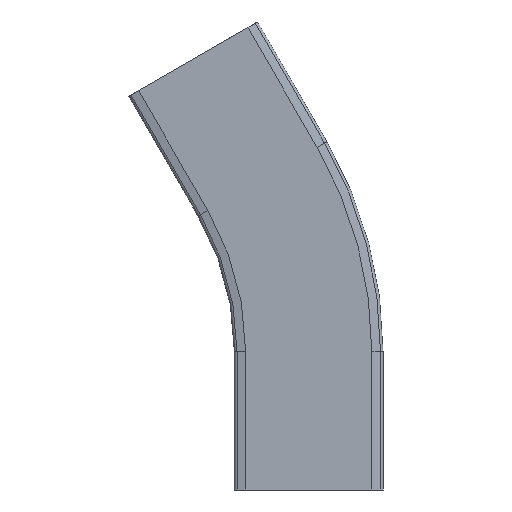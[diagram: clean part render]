
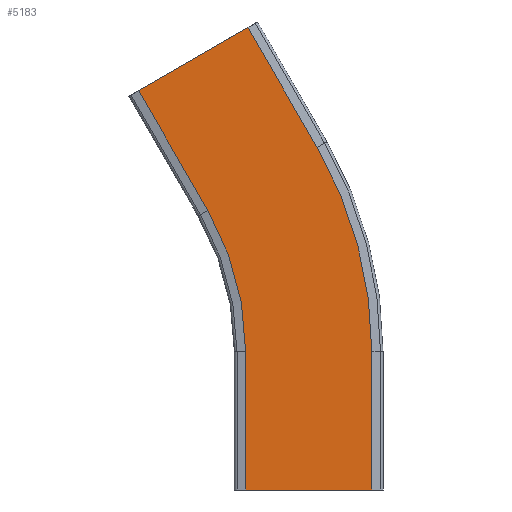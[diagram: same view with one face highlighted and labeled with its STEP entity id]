
A CAD part, front view. The second image highlights one B-rep face of the part: STEP entity #5183.
In plain terms, the highlighted planar face has unit normal (0, -1, 0).
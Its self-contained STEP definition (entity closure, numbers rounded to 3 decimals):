
#4773=CARTESIAN_POINT('',(36.5,-11.,0.0));
#4774=VERTEX_POINT('',#4773);
#4781=CARTESIAN_POINT('',(-36.5,-11.,0.0));
#4782=VERTEX_POINT('',#4781);
#4783=CARTESIAN_POINT('',(-36.5,-11.,0.0));
#4784=DIRECTION('',(1.0,0.0,0.0));
#4785=VECTOR('',#4784,73.);
#4786=LINE('',#4783,#4785);
#4787=EDGE_CURVE('',#4782,#4774,#4786,.T.);
#4813=CARTESIAN_POINT('',(-36.5,-11.,80.0));
#4814=VERTEX_POINT('',#4813);
#4828=CARTESIAN_POINT('',(-36.5,-11.,0.0));
#4829=DIRECTION('',(0.0,0.0,1.0));
#4830=VECTOR('',#4829,80.0);
#4831=LINE('',#4828,#4830);
#4832=EDGE_CURVE('',#4782,#4814,#4831,.T.);
#4842=CARTESIAN_POINT('',(36.5,-11.,80.0));
#4843=VERTEX_POINT('',#4842);
#4852=CARTESIAN_POINT('',(36.5,-11.,0.0));
#4853=DIRECTION('',(0.0,0.0,1.0));
#4854=VECTOR('',#4853,80.0);
#4855=LINE('',#4852,#4854);
#4856=EDGE_CURVE('',#4774,#4843,#4855,.T.);
#4969=CARTESIAN_POINT('',(4.815,-11.,198.25));
#4970=VERTEX_POINT('',#4969);
#4977=CARTESIAN_POINT('',(-200.0,-11.,80.0));
#4978=DIRECTION('',(0.0,-1.0,0.0));
#4979=DIRECTION('',(1.0,0.0,0.0));
#4980=AXIS2_PLACEMENT_3D('',#4977,#4978,#4979);
#4981=CIRCLE('',#4980,236.5);
#4982=EDGE_CURVE('',#4843,#4970,#4981,.T.);
#5036=CARTESIAN_POINT('',(-58.405,-11.,161.75));
#5037=VERTEX_POINT('',#5036);
#5052=CARTESIAN_POINT('',(-200.0,-11.,80.0));
#5053=DIRECTION('',(0.0,-1.0,0.0));
#5054=DIRECTION('',(1.0,0.0,0.0));
#5055=AXIS2_PLACEMENT_3D('',#5052,#5053,#5054);
#5056=CIRCLE('',#5055,163.5);
#5057=EDGE_CURVE('',#4814,#5037,#5056,.T.);
#5067=CARTESIAN_POINT('',(-35.185,-11.,267.532));
#5068=VERTEX_POINT('',#5067);
#5075=CARTESIAN_POINT('',(4.815,-11.,198.25));
#5076=DIRECTION('',(-0.5,0.0,0.866));
#5077=VECTOR('',#5076,80.);
#5078=LINE('',#5075,#5077);
#5079=EDGE_CURVE('',#4970,#5068,#5078,.T.);
#5144=CARTESIAN_POINT('',(-98.405,-11.,231.032));
#5145=VERTEX_POINT('',#5144);
#5154=CARTESIAN_POINT('',(-58.405,-11.,161.75));
#5155=DIRECTION('',(-0.5,0.0,0.866));
#5156=VECTOR('',#5155,80.);
#5157=LINE('',#5154,#5156);
#5158=EDGE_CURVE('',#5037,#5145,#5157,.T.);
#5163=CARTESIAN_POINT('',(97.175,-11.,38.278));
#5164=DIRECTION('',(0.0,-1.0,0.0));
#5165=DIRECTION('',(0.5,0.0,-0.866));
#5166=AXIS2_PLACEMENT_3D('',#5163,#5164,#5165);
#5167=PLANE('',#5166);
#5168=CARTESIAN_POINT('',(-35.185,-11.,267.532));
#5169=DIRECTION('',(-0.866,0.,-0.5));
#5170=VECTOR('',#5169,73.);
#5171=LINE('',#5168,#5170);
#5172=EDGE_CURVE('',#5068,#5145,#5171,.T.);
#5173=ORIENTED_EDGE('',*,*,#5172,.T.);
#5174=ORIENTED_EDGE('',*,*,#5158,.F.);
#5175=ORIENTED_EDGE('',*,*,#5057,.F.);
#5176=ORIENTED_EDGE('',*,*,#4832,.F.);
#5177=ORIENTED_EDGE('',*,*,#4787,.T.);
#5178=ORIENTED_EDGE('',*,*,#4856,.T.);
#5179=ORIENTED_EDGE('',*,*,#4982,.T.);
#5180=ORIENTED_EDGE('',*,*,#5079,.T.);
#5181=EDGE_LOOP('',(#5173,#5174,#5175,#5176,#5177,#5178,#5179,#5180));
#5182=FACE_OUTER_BOUND('',#5181,.T.);
#5183=ADVANCED_FACE('',(#5182),#5167,.T.);
